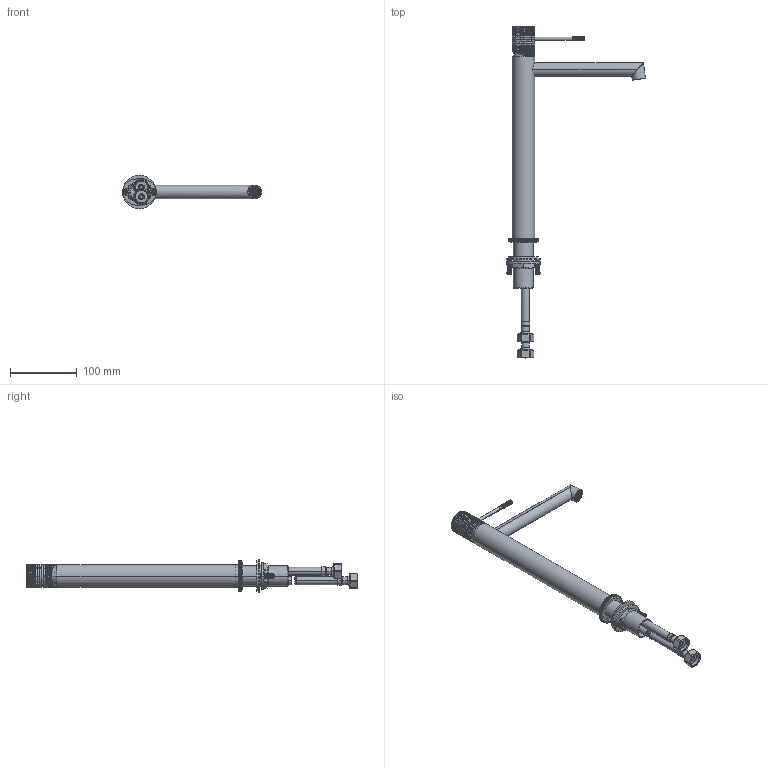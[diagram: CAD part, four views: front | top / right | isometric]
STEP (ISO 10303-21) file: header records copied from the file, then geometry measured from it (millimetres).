
FILE_DESCRIPTION((''),'2;1');
FILE_NAME('1109800_ASM_ASM','2021-10-15T',('RD001'),(''),'PRO/ENGINEER BY PARAMETRIC TECHNOLOGY CORPORATION, 2011310','PRO/ENGINEER BY PARAMETRIC TECHNOLOGY CORPORATION, 2011310','');
FILE_SCHEMA(('CONFIG_CONTROL_DESIGN'));
Length unit declared in the file: millimetre
Products named in the file (28): 511046-01-122_AF0_3; 511045-01-322_AF1_3; 511098-01-122_ASM_3_ASM; 511046-01-422_3; 511045-01-522_3; 511098-0100_ASM_3_ASM; 61818900_3; 7609313-0100_3; 7609313-0200_3; 7609270-0200_3; 60931300_ASM_3_ASM; 511045-0300_3; 61500742_3; MANIFOLD_SOLID_BREP_371024; MANIFOLD_SOLID_BREP_402010; MANIFOLD_SOLID_BREP_424400; 65305541_3_ASM; 61625242_2; 61625712_2; 61325322_2; 61326499_2; 61107512_2; 61326499_ASM_2_ASM; MANIFOLD_SOLID_BREP_434560; MANIFOLD_SOLID_BREP_436000; 61710312_1_ASM; 1109800_ASM_3_ASM; 1109800_ASM_ASM
Assembly tree (29 placements, depth 5):
  1109800_ASM_ASM
    1109800_ASM_3_ASM
      511098-0100_ASM_3_ASM
        511098-01-122_ASM_3_ASM
          511046-01-122_AF0_3
          511045-01-322_AF1_3
        511046-01-422_3
        511045-01-522_3
      61818900_3
      60931300_ASM_3_ASM
        7609313-0100_3
        7609313-0200_3
        7609270-0200_3
      511045-0300_3
      61500742_3
      65305541_3_ASM
        MANIFOLD_SOLID_BREP_371024
        MANIFOLD_SOLID_BREP_402010
        MANIFOLD_SOLID_BREP_424400
      61625242_2
      61625712_2
      61325322_2
      61326499_ASM_2_ASM
        61326499_2
        61107512_2  x2
      61710312_1_ASM  x2
        MANIFOLD_SOLID_BREP_434560
        MANIFOLD_SOLID_BREP_436000
Bounding box: 208.37 x 496.7 x 50 mm (x, y, z)
Volume: 336717 mm3; surface area: 126643.1 mm2
Topology: 23 solids, 23 shells, 9088 faces, 20641 edges, 11873 vertices
Faces by surface type: bspline 5414, cylinder 2400, plane 1129, cone 95, torus 40, extrusion 6, revolution 4
Entity records: 359588 total; most frequent: CARTESIAN_POINT 207301, ORIENTED_EDGE 40438, EDGE_CURVE 20219, B_SPLINE_CURVE_WITH_KNOTS 15347, DIRECTION 14019, VERTEX_POINT 11582, EDGE_LOOP 9461, FACE_OUTER_BOUND 8945
